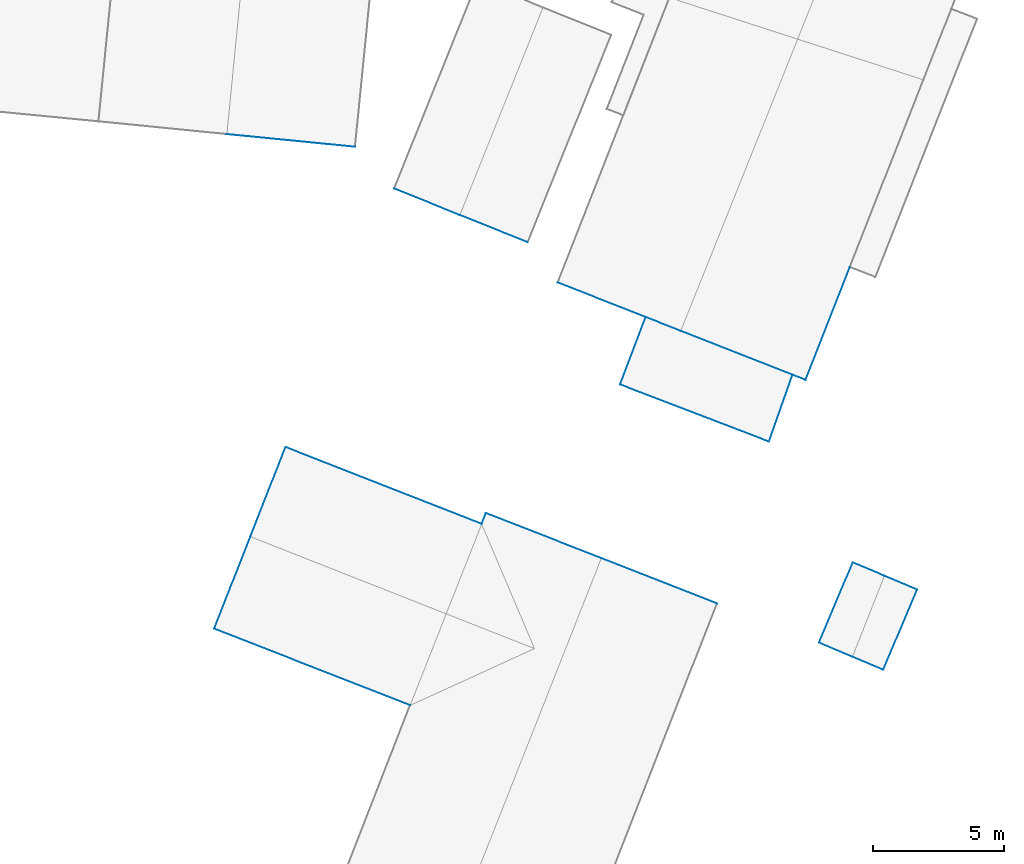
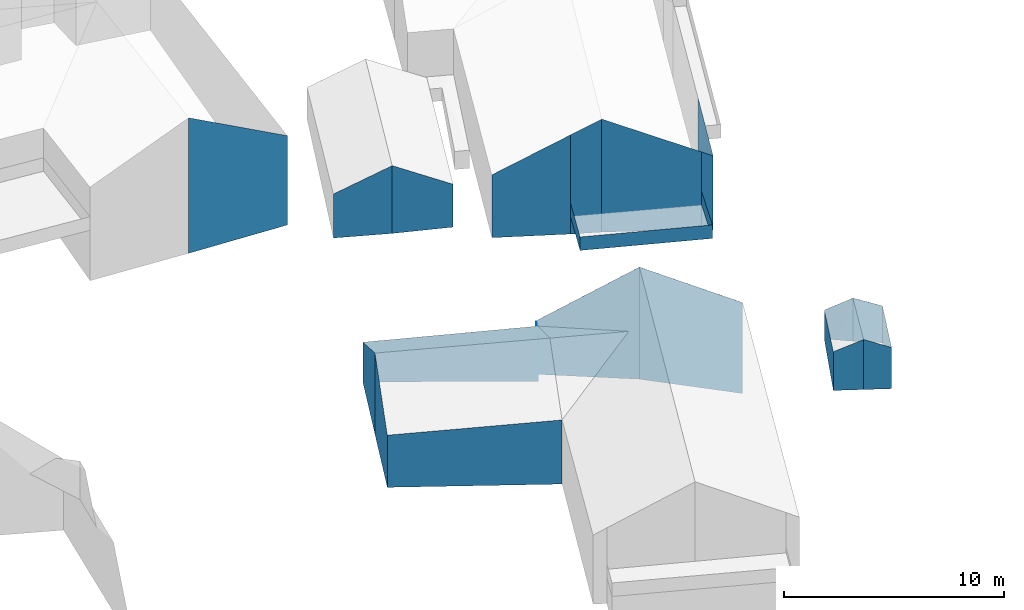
# Not in any storey, part 40 of 57: 27 walls.
"""IFC4 building model written with IfcOpenShell, lengths in metres."""

from ifc_helpers import new_model, entity, si_unit, converted_unit, origin, place, context, subcontext, project, spatial, face_set, surface_model, element, save


model = new_model("IFC4")

# Units and contexts
model_context = context("Model", 3, precision=1e-05, world=origin())
body_context = subcontext(model_context, "Body", "Model", "MODEL_VIEW")
ifc_project = project(units=[converted_unit("PLANEANGLEUNIT", "DEGREE", entity("IfcRatioMeasure", 0.0174532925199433), si_unit("PLANEANGLEUNIT", "RADIAN"), dimensions=[0, 0, 0, 0, 0, 0, 0]), si_unit("AREAUNIT", "SQUARE_METRE"), si_unit("LENGTHUNIT", "METRE")], contexts=[model_context])

# Site, building
site_placement = place(None, origin())
site = spatial("IfcSite", under=ifc_project, at=site_placement, Name="_site")
building_1_placement = place(site_placement, origin())
building_1 = spatial("IfcBuilding", under=site, at=building_1_placement, Name="_building")

# Walls
wall_1_placement = place(building_1_placement, origin())
element("IfcWall", 1, at=wall_1_placement, inside=building_1, Name="Wall", PredefinedType="NOTDEFINED", context=body_context, shape_type="SurfaceModel", body=[
    surface_model("IfcFaceBasedSurfaceModel", [(280.772, 134.306, 111.8), (278.174, 135.347, 113.11), (278.174, 135.347, 109.347), (280.772, 134.306, 109.42)], [face_set([[[0, 1, 2, 3]]])]),
])
wall_2_placement = place(building_1_placement, origin())
element("IfcWall", 2, at=wall_2_placement, inside=building_1, Name="Wall", PredefinedType="NOTDEFINED", context=body_context, shape_type="SurfaceModel", body=[
    surface_model("IfcFaceBasedSurfaceModel", [(278.174, 135.347, 113.11), (275.667, 136.357, 111.8), (275.667, 136.357, 109.357), (278.174, 135.347, 109.347)], [face_set([[[0, 1, 2, 3]]])]),
])

# Building
building_2_placement = place(site_placement, origin())
building_2 = spatial("IfcBuilding", under=site, at=building_2_placement, Name="_building")

# Walls
wall_3_placement = place(building_2_placement, origin())
element("IfcWall", 3, at=wall_3_placement, inside=building_2, Name="Wall", PredefinedType="NOTDEFINED", context=body_context, shape_type="SurfaceModel", body=[
    surface_model("IfcFaceBasedSurfaceModel", [(293.193, 122.068, 107.89), (294.402, 121.559, 108.44), (294.402, 121.559, 106.04), (293.193, 122.068, 106.284)], [face_set([[[0, 1, 2, 3]]])]),
])
wall_4_placement = place(building_2_placement, origin())
element("IfcWall", 4, at=wall_4_placement, inside=building_2, Name="Wall", PredefinedType="NOTDEFINED", context=body_context, shape_type="SurfaceModel", body=[
    surface_model("IfcFaceBasedSurfaceModel", [(291.901, 119.006, 107.89), (293.193, 122.068, 107.89), (293.193, 122.068, 106.284), (291.901, 119.006, 105.732)], [face_set([[[0, 1, 2, 3]]])]),
])
wall_5_placement = place(building_2_placement, origin())
element("IfcWall", 5, at=wall_5_placement, inside=building_2, Name="Wall", PredefinedType="NOTDEFINED", context=body_context, shape_type="SurfaceModel", body=[
    surface_model("IfcFaceBasedSurfaceModel", [(293.179, 118.466, 108.44), (291.901, 119.006, 107.89), (291.901, 119.006, 105.732), (293.179, 118.466, 105.664)], [face_set([[[0, 1, 2, 3]]])]),
])
wall_6_placement = place(building_2_placement, origin())
element("IfcWall", 6, at=wall_6_placement, inside=building_2, Name="Wall", PredefinedType="NOTDEFINED", context=body_context, shape_type="SurfaceModel", body=[
    surface_model("IfcFaceBasedSurfaceModel", [(294.358, 117.968, 107.89), (293.179, 118.466, 108.44), (293.179, 118.466, 105.664), (294.358, 117.968, 105.601)], [face_set([[[0, 1, 2, 3]]])]),
])
wall_7_placement = place(building_2_placement, origin())
element("IfcWall", 7, at=wall_7_placement, inside=building_2, Name="Wall", PredefinedType="NOTDEFINED", context=body_context, shape_type="SurfaceModel", body=[
    surface_model("IfcFaceBasedSurfaceModel", [(295.65, 121.03, 107.89), (294.358, 117.968, 107.89), (294.358, 117.968, 105.601), (295.65, 121.03, 105.836)], [face_set([[[0, 1, 2, 3]]])]),
])
wall_8_placement = place(building_2_placement, origin())
element("IfcWall", 8, at=wall_8_placement, inside=building_2, Name="Wall", PredefinedType="NOTDEFINED", context=body_context, shape_type="SurfaceModel", body=[
    surface_model("IfcFaceBasedSurfaceModel", [(294.402, 121.559, 108.44), (295.65, 121.03, 107.89), (295.65, 121.03, 105.836), (294.402, 121.559, 106.04)], [face_set([[[0, 1, 2, 3]]])]),
])

# Building
building_3_placement = place(site_placement, origin())
building_3 = spatial("IfcBuilding", under=site, at=building_3_placement, Name="_building")

# Walls
wall_9_placement = place(building_3_placement, origin())
element("IfcWall", 9, at=wall_9_placement, inside=building_3, Name="Wall", PredefinedType="NOTDEFINED", context=body_context, shape_type="SurfaceModel", body=[
    surface_model("IfcFaceBasedSurfaceModel", [(285.277, 131.446, 114.697), (281.916, 132.768, 112.86), (281.916, 132.768, 109.364), (285.277, 131.446, 109.192)], [face_set([[[0, 1, 2, 3]]])]),
])
wall_10_placement = place(building_3_placement, origin())
element("IfcWall", 10, at=wall_10_placement, inside=building_3, Name="Wall", PredefinedType="NOTDEFINED", context=body_context, shape_type="SurfaceModel", body=[
    surface_model("IfcFaceBasedSurfaceModel", [(286.616, 130.917, 115.43), (285.277, 131.446, 114.697), (285.277, 131.446, 109.192), (286.616, 130.917, 109.149)], [face_set([[[0, 1, 2, 3]]])]),
])
wall_11_placement = place(building_3_placement, origin())
element("IfcWall", 11, at=wall_11_placement, inside=building_3, Name="Wall", PredefinedType="NOTDEFINED", context=body_context, shape_type="SurfaceModel", body=[
    surface_model("IfcFaceBasedSurfaceModel", [(291.385, 129.044, 112.86), (290.89, 129.238, 113.127), (290.89, 129.238, 108.833), (291.385, 129.044, 108.731)], [face_set([[[0, 1, 2, 3]]])]),
])
wall_12_placement = place(building_3_placement, origin())
element("IfcWall", 12, at=wall_12_placement, inside=building_3, Name="Wall", PredefinedType="NOTDEFINED", context=body_context, shape_type="SurfaceModel", body=[
    surface_model("IfcFaceBasedSurfaceModel", [(290.89, 129.238, 113.127), (286.616, 130.917, 115.43), (286.616, 130.917, 109.149), (290.89, 129.238, 108.833)], [face_set([[[0, 1, 2, 3]]])]),
])
wall_13_placement = place(building_3_placement, origin())
element("IfcWall", 13, at=wall_13_placement, inside=building_3, Name="Wall", PredefinedType="NOTDEFINED", context=body_context, shape_type="SurfaceModel", body=[
    surface_model("IfcFaceBasedSurfaceModel", [(293.08, 133.357, 112.86), (291.385, 129.044, 112.86), (291.385, 129.044, 108.731), (293.08, 133.357, 108.654)], [face_set([[[0, 1, 2, 3]]])]),
])
wall_14_placement = place(building_3_placement, origin())
element("IfcWall", 14, at=wall_14_placement, inside=building_3, Name="Wall", PredefinedType="NOTDEFINED", context=body_context, shape_type="SurfaceModel", body=[
    surface_model("IfcFaceBasedSurfaceModel", [(284.297, 128.87, 110.185), (285.277, 131.446, 110.185), (285.277, 131.446, 110.935), (284.297, 128.87, 110.935)], [face_set([[[0, 1, 2, 3]]])]),
])
wall_15_placement = place(building_3_placement, origin())
element("IfcWall", 15, at=wall_15_placement, inside=building_3, Name="Wall", PredefinedType="NOTDEFINED", context=body_context, shape_type="SurfaceModel", body=[
    surface_model("IfcFaceBasedSurfaceModel", [(290.89, 129.238, 110.185), (289.989, 126.686, 110.185), (289.989, 126.686, 110.935), (290.89, 129.238, 110.935)], [face_set([[[0, 1, 2, 3]]])]),
])
wall_16_placement = place(building_3_placement, origin())
element("IfcWall", 16, at=wall_16_placement, inside=building_3, Name="Wall", PredefinedType="NOTDEFINED", context=body_context, shape_type="SurfaceModel", body=[
    surface_model("IfcFaceBasedSurfaceModel", [(289.989, 126.686, 110.185), (284.297, 128.87, 110.185), (284.297, 128.87, 110.935), (289.989, 126.686, 110.935)], [face_set([[[0, 1, 2, 3]]])]),
])
wall_17_placement = place(building_3_placement, origin())
element("IfcWall", 17, at=wall_17_placement, inside=building_3, Name="Wall", PredefinedType="NOTDEFINED", context=body_context, shape_type="SurfaceModel", body=[
    surface_model("IfcFaceBasedSurfaceModel", [(284.297, 128.87, 110.185), (285.277, 131.446, 110.185), (285.277, 131.446, 110.935), (284.297, 128.87, 110.935)], [face_set([[[0, 1, 2, 3]]])]),
])
wall_18_placement = place(building_3_placement, origin())
element("IfcWall", 18, at=wall_18_placement, inside=building_3, Name="Wall", PredefinedType="NOTDEFINED", context=body_context, shape_type="SurfaceModel", body=[
    surface_model("IfcFaceBasedSurfaceModel", [(289.989, 126.686, 110.185), (284.297, 128.87, 110.185), (284.297, 128.87, 110.935), (289.989, 126.686, 110.935)], [face_set([[[0, 1, 2, 3]]])]),
])
wall_19_placement = place(building_3_placement, origin())
element("IfcWall", 19, at=wall_19_placement, inside=building_3, Name="Wall", PredefinedType="NOTDEFINED", context=body_context, shape_type="SurfaceModel", body=[
    surface_model("IfcFaceBasedSurfaceModel", [(290.89, 129.238, 110.185), (289.989, 126.686, 110.185), (289.989, 126.686, 110.935), (290.89, 129.238, 110.935)], [face_set([[[0, 1, 2, 3]]])]),
])

# Building
building_4_placement = place(site_placement, origin())
building_4 = spatial("IfcBuilding", under=site, at=building_4_placement, Name="_building")

# Walls
wall_20_placement = place(building_4_placement, origin())
element("IfcWall", 20, at=wall_20_placement, inside=building_4, Name="Wall", PredefinedType="NOTDEFINED", context=body_context, shape_type="SurfaceModel", body=[
    surface_model("IfcFaceBasedSurfaceModel", [(268.789, 119.537, 111.02), (270.172, 123.057, 112.96), (270.172, 123.057, 108.453), (268.789, 119.537, 108.124)], [face_set([[[0, 1, 2, 3]]])]),
])
wall_21_placement = place(building_4_placement, origin())
element("IfcWall", 21, at=wall_21_placement, inside=building_4, Name="Wall", PredefinedType="NOTDEFINED", context=body_context, shape_type="SurfaceModel", body=[
    surface_model("IfcFaceBasedSurfaceModel", [(276.275, 116.611, 111.02), (268.789, 119.537, 111.02), (268.789, 119.537, 108.124), (276.275, 116.611, 107.461)], [face_set([[[0, 1, 2, 3]]])]),
])
wall_22_placement = place(building_4_placement, origin())
element("IfcWall", 22, at=wall_22_placement, inside=building_4, Name="Wall", PredefinedType="NOTDEFINED", context=body_context, shape_type="SurfaceModel", body=[
    surface_model("IfcFaceBasedSurfaceModel", [(271.513, 126.478, 111.02), (279.009, 123.541, 111.07), (279.009, 123.541, 108.009), (271.513, 126.478, 108.811)], [face_set([[[0, 1, 2, 3]]])]),
])
wall_23_placement = place(building_4_placement, origin())
element("IfcWall", 23, at=wall_23_placement, inside=building_4, Name="Wall", PredefinedType="NOTDEFINED", context=body_context, shape_type="SurfaceModel", body=[
    surface_model("IfcFaceBasedSurfaceModel", [(270.172, 123.057, 112.96), (271.513, 126.478, 111.02), (271.513, 126.478, 108.811), (270.172, 123.057, 108.453)], [face_set([[[0, 1, 2, 3]]])]),
])

# Building
building_5_placement = place(site_placement, origin())
building_5 = spatial("IfcBuilding", under=site, at=building_5_placement, Name="_building")

# Walls
wall_24_placement = place(building_5_placement, origin())
element("IfcWall", 24, at=wall_24_placement, inside=building_5, Name="Wall", PredefinedType="NOTDEFINED", context=body_context, shape_type="SurfaceModel", body=[
    surface_model("IfcFaceBasedSurfaceModel", [(279.169, 123.957, 111.07), (283.581, 122.233, 113.54), (283.581, 122.233, 107.312), (279.169, 123.957, 108.086)], [face_set([[[0, 1, 2, 3]]])]),
])
wall_25_placement = place(building_5_placement, origin())
element("IfcWall", 25, at=wall_25_placement, inside=building_5, Name="Wall", PredefinedType="NOTDEFINED", context=body_context, shape_type="SurfaceModel", body=[
    surface_model("IfcFaceBasedSurfaceModel", [(279.009, 123.541, 111.07), (279.169, 123.957, 111.07), (279.169, 123.957, 108.086), (279.009, 123.541, 108.009)], [face_set([[[0, 1, 2, 3]]])]),
])
wall_26_placement = place(building_5_placement, origin())
element("IfcWall", 26, at=wall_26_placement, inside=building_5, Name="Wall", PredefinedType="NOTDEFINED", context=body_context, shape_type="SurfaceModel", body=[
    surface_model("IfcFaceBasedSurfaceModel", [(283.581, 122.233, 113.54), (288.003, 120.498, 111.07), (288.003, 120.498, 106.02), (283.581, 122.233, 107.312)], [face_set([[[0, 1, 2, 3]]])]),
])

# Building
building_6_placement = place(site_placement, origin())
building_6 = spatial("IfcBuilding", under=site, at=building_6_placement, Name="_building")

# Wall
wall_27_placement = place(building_6_placement, origin())
element("IfcWall", 27, at=wall_27_placement, inside=building_6, Name="Wall", PredefinedType="NOTDEFINED", context=body_context, shape_type="SurfaceModel", body=[
    surface_model("IfcFaceBasedSurfaceModel", [(274.173, 137.953, 114.59), (269.271, 138.438, 117.01), (269.271, 138.438, 109.487), (274.173, 137.953, 109.637)], [face_set([[[0, 1, 2, 3]]])]),
])

save(model, "model.ifc")
